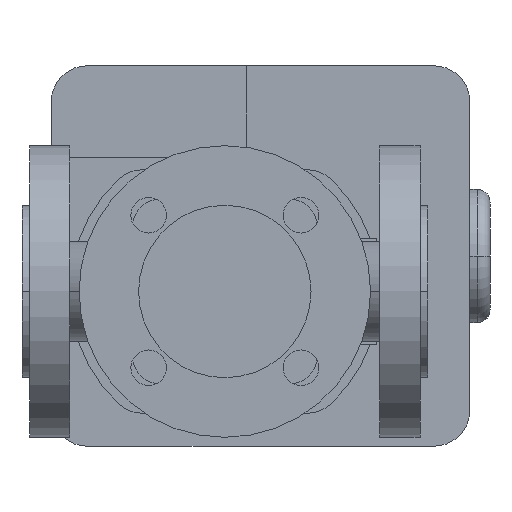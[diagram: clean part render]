
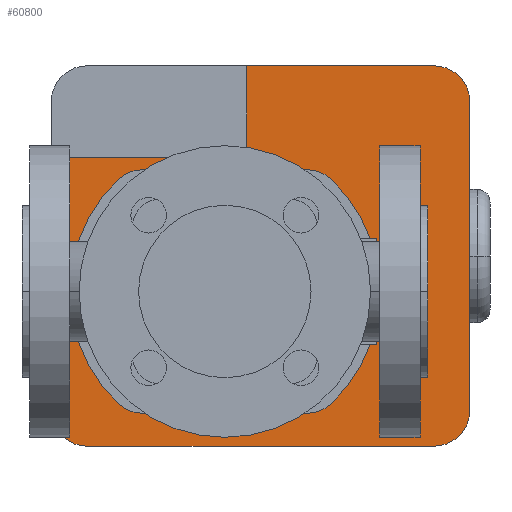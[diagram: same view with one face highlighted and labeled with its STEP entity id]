
A CAD part, front view. The second image highlights one B-rep face of the part: STEP entity #60800.
In plain terms, the highlighted planar face has unit normal (0, -1, 0).
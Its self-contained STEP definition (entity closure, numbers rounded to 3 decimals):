
#49690=CARTESIAN_POINT('',(139.96,502.,11.216));
#49700=VERTEX_POINT('',#49690);
#49730=CARTESIAN_POINT('',(130.,502.,0.));
#49740=DIRECTION('',(0.,1.,0.));
#49750=DIRECTION('',(0.,0.,1.));
#49760=AXIS2_PLACEMENT_3D('',#49730,#49740,#49750);
#49770=CIRCLE('',#49760,15.);
#49780=CARTESIAN_POINT('',(139.96,502.,-11.216));
#49790=VERTEX_POINT('',#49780);
#49800=EDGE_CURVE('',#49700,#49790,#49770,.T.);
#52520=CARTESIAN_POINT('',(122.116,502.,44.128));
#52530=VERTEX_POINT('',#52520);
#52560=CARTESIAN_POINT('',(80.,502.,0.));
#52570=DIRECTION('',(0.,1.,0.));
#52580=DIRECTION('',(0.69,0.,0.723));
#52590=AXIS2_PLACEMENT_3D('',#52560,#52570,#52580);
#52600=CIRCLE('',#52590,61.);
#52610=EDGE_CURVE('',#52530,#49700,#52600,.T.);
#53000=CARTESIAN_POINT('',(20.04,502.,-11.216));
#53010=VERTEX_POINT('',#53000);
#53040=CARTESIAN_POINT('',(30.,502.,0.));
#53050=DIRECTION('',(0.,1.,0.));
#53060=DIRECTION('',(0.,0.,-1.));
#53070=AXIS2_PLACEMENT_3D('',#53040,#53050,#53060);
#53080=CIRCLE('',#53070,15.);
#53090=CARTESIAN_POINT('',(20.04,502.,11.216));
#53100=VERTEX_POINT('',#53090);
#53110=EDGE_CURVE('',#53010,#53100,#53080,.T.);
#54100=CARTESIAN_POINT('',(37.884,502.,-44.128));
#54110=VERTEX_POINT('',#54100);
#54140=CARTESIAN_POINT('',(80.,502.,0.));
#54150=DIRECTION('',(0.,1.,0.));
#54160=DIRECTION('',(-0.69,0.,-0.723));
#54170=AXIS2_PLACEMENT_3D('',#54140,#54150,#54160);
#54180=CIRCLE('',#54170,61.);
#54190=EDGE_CURVE('',#54110,#53010,#54180,.T.);
#56500=CARTESIAN_POINT('',(176.6,502.,75.));
#56510=VERTEX_POINT('',#56500);
#56560=CARTESIAN_POINT('',(162.6,502.,75.));
#56570=DIRECTION('',(0.,1.,0.));
#56580=DIRECTION('',(0.,0.,1.));
#56590=AXIS2_PLACEMENT_3D('',#56560,#56570,#56580);
#56600=CIRCLE('',#56590,14.);
#56610=CARTESIAN_POINT('',(162.6,502.,89.));
#56620=VERTEX_POINT('',#56610);
#56630=EDGE_CURVE('',#56620,#56510,#56600,.T.);
#59360=CARTESIAN_POINT('',(80.,502.,0.));
#59370=DIRECTION('',(0.,1.,0.));
#59380=DIRECTION('',(0.,0.,1.));
#59390=AXIS2_PLACEMENT_3D('',#59360,#59370,#59380);
#59400=PLANE('',#59390);
#59410=ORIENTED_EDGE('',*,*,#52610,.T.);
#59420=CARTESIAN_POINT('',(112.45,502.,34.));
#59430=DIRECTION('',(0.,1.,0.));
#59440=DIRECTION('',(0.,0.,1.));
#59450=AXIS2_PLACEMENT_3D('',#59420,#59430,#59440);
#59460=CIRCLE('',#59450,14.);
#59470=CARTESIAN_POINT('',(112.45,502.,48.));
#59480=VERTEX_POINT('',#59470);
#59490=EDGE_CURVE('',#59480,#52530,#59460,.T.);
#59500=ORIENTED_EDGE('',*,*,#59490,.T.);
#59510=CARTESIAN_POINT('',(63.775,502.,48.));
#59520=DIRECTION('',(1.,0.,0.));
#59530=VECTOR('',#59520,1.);
#59540=LINE('',#59510,#59530);
#59550=CARTESIAN_POINT('',(47.55,502.,48.));
#59560=VERTEX_POINT('',#59550);
#59570=EDGE_CURVE('',#59560,#59480,#59540,.T.);
#59580=ORIENTED_EDGE('',*,*,#59570,.T.);
#59590=CARTESIAN_POINT('',(47.55,502.,34.));
#59600=DIRECTION('',(0.,1.,0.));
#59610=DIRECTION('',(-0.69,0.,0.723));
#59620=AXIS2_PLACEMENT_3D('',#59590,#59600,#59610);
#59630=CIRCLE('',#59620,14.);
#59640=CARTESIAN_POINT('',(37.884,502.,44.128));
#59650=VERTEX_POINT('',#59640);
#59660=EDGE_CURVE('',#59650,#59560,#59630,.T.);
#59670=ORIENTED_EDGE('',*,*,#59660,.T.);
#59680=CARTESIAN_POINT('',(80.,502.,0.));
#59690=DIRECTION('',(0.,1.,0.));
#59700=DIRECTION('',(-0.69,0.,-0.723));
#59710=AXIS2_PLACEMENT_3D('',#59680,#59690,#59700);
#59720=CIRCLE('',#59710,61.);
#59730=EDGE_CURVE('',#53100,#59650,#59720,.T.);
#59740=ORIENTED_EDGE('',*,*,#59730,.T.);
#59750=ORIENTED_EDGE('',*,*,#53110,.T.);
#59760=ORIENTED_EDGE('',*,*,#54190,.T.);
#59770=CARTESIAN_POINT('',(47.55,502.,-34.));
#59780=DIRECTION('',(0.,1.,0.));
#59790=DIRECTION('',(0.,0.,-1.));
#59800=AXIS2_PLACEMENT_3D('',#59770,#59780,#59790);
#59810=CIRCLE('',#59800,14.);
#59820=CARTESIAN_POINT('',(47.55,502.,-48.));
#59830=VERTEX_POINT('',#59820);
#59840=EDGE_CURVE('',#59830,#54110,#59810,.T.);
#59850=ORIENTED_EDGE('',*,*,#59840,.T.);
#59860=CARTESIAN_POINT('',(96.225,502.,-48.));
#59870=DIRECTION('',(-1.,0.,0.));
#59880=VECTOR('',#59870,1.);
#59890=LINE('',#59860,#59880);
#59900=CARTESIAN_POINT('',(112.45,502.,-48.));
#59910=VERTEX_POINT('',#59900);
#59920=EDGE_CURVE('',#59910,#59830,#59890,.T.);
#59930=ORIENTED_EDGE('',*,*,#59920,.T.);
#59940=CARTESIAN_POINT('',(112.45,502.,-34.));
#59950=DIRECTION('',(0.,1.,0.));
#59960=DIRECTION('',(0.69,0.,-0.723));
#59970=AXIS2_PLACEMENT_3D('',#59940,#59950,#59960);
#59980=CIRCLE('',#59970,14.);
#59990=CARTESIAN_POINT('',(122.116,502.,-44.128));
#60000=VERTEX_POINT('',#59990);
#60010=EDGE_CURVE('',#60000,#59910,#59980,.T.);
#60020=ORIENTED_EDGE('',*,*,#60010,.T.);
#60030=CARTESIAN_POINT('',(80.,502.,0.));
#60040=DIRECTION('',(0.,1.,0.));
#60050=DIRECTION('',(0.69,0.,0.723));
#60060=AXIS2_PLACEMENT_3D('',#60030,#60040,#60050);
#60070=CIRCLE('',#60060,61.);
#60080=EDGE_CURVE('',#49790,#60000,#60070,.T.);
#60090=ORIENTED_EDGE('',*,*,#60080,.T.);
#60100=ORIENTED_EDGE('',*,*,#49800,.T.);
#60110=EDGE_LOOP('',(#60100,#60090,#60020,#59930,#59850,#59760,#59750,
#59740,#59670,#59580,#59500,#59410));
#60120=FACE_BOUND('',#60110,.T.);
#60130=CARTESIAN_POINT('',(88.6,502.,26.5));
#60140=DIRECTION('',(0.,0.,-1.));
#60150=VECTOR('',#60140,1.);
#60160=LINE('',#60130,#60150);
#60170=CARTESIAN_POINT('',(88.6,502.,89.));
#60180=VERTEX_POINT('',#60170);
#60190=CARTESIAN_POINT('',(88.6,502.,53.));
#60200=VERTEX_POINT('',#60190);
#60210=EDGE_CURVE('',#60180,#60200,#60160,.T.);
#60220=ORIENTED_EDGE('',*,*,#60210,.T.);
#60230=CARTESIAN_POINT('',(25.6,502.,89.));
#60240=DIRECTION('',(1.,0.,0.));
#60250=VECTOR('',#60240,1.);
#60260=LINE('',#60230,#60250);
#60270=EDGE_CURVE('',#60180,#56620,#60260,.T.);
#60280=ORIENTED_EDGE('',*,*,#60270,.F.);
#60290=ORIENTED_EDGE('',*,*,#56630,.F.);
#60300=CARTESIAN_POINT('',(176.6,502.,75.));
#60310=DIRECTION('',(0.,0.,-1.));
#60320=VECTOR('',#60310,1.);
#60330=LINE('',#60300,#60320);
#60340=CARTESIAN_POINT('',(176.6,502.,-47.));
#60350=VERTEX_POINT('',#60340);
#60360=EDGE_CURVE('',#56510,#60350,#60330,.T.);
#60370=ORIENTED_EDGE('',*,*,#60360,.F.);
#60380=CARTESIAN_POINT('',(162.6,502.,-47.));
#60390=DIRECTION('',(0.,1.,0.));
#60400=DIRECTION('',(1.,0.,0.));
#60410=AXIS2_PLACEMENT_3D('',#60380,#60390,#60400);
#60420=CIRCLE('',#60410,14.);
#60430=CARTESIAN_POINT('',(162.6,502.,-61.));
#60440=VERTEX_POINT('',#60430);
#60450=EDGE_CURVE('',#60350,#60440,#60420,.T.);
#60460=ORIENTED_EDGE('',*,*,#60450,.F.);
#60470=CARTESIAN_POINT('',(162.6,502.,-61.));
#60480=DIRECTION('',(-1.,0.,0.));
#60490=VECTOR('',#60480,1.);
#60500=LINE('',#60470,#60490);
#60510=CARTESIAN_POINT('',(25.6,502.,-61.));
#60520=VERTEX_POINT('',#60510);
#60530=EDGE_CURVE('',#60440,#60520,#60500,.T.);
#60540=ORIENTED_EDGE('',*,*,#60530,.F.);
#60550=CARTESIAN_POINT('',(25.6,502.,-47.));
#60560=DIRECTION('',(0.,1.,0.));
#60570=DIRECTION('',(0.,0.,-1.));
#60580=AXIS2_PLACEMENT_3D('',#60550,#60560,#60570);
#60590=CIRCLE('',#60580,14.);
#60600=CARTESIAN_POINT('',(11.6,502.,-47.));
#60610=VERTEX_POINT('',#60600);
#60620=EDGE_CURVE('',#60520,#60610,#60590,.T.);
#60630=ORIENTED_EDGE('',*,*,#60620,.F.);
#60640=CARTESIAN_POINT('',(11.6,502.,-47.));
#60650=DIRECTION('',(0.,0.,1.));
#60660=VECTOR('',#60650,1.);
#60670=LINE('',#60640,#60660);
#60680=CARTESIAN_POINT('',(11.6,502.,53.));
#60690=VERTEX_POINT('',#60680);
#60700=EDGE_CURVE('',#60610,#60690,#60670,.T.);
#60710=ORIENTED_EDGE('',*,*,#60700,.F.);
#60720=CARTESIAN_POINT('',(45.3,502.,53.));
#60730=DIRECTION('',(-1.,0.,0.));
#60740=VECTOR('',#60730,1.);
#60750=LINE('',#60720,#60740);
#60760=EDGE_CURVE('',#60200,#60690,#60750,.T.);
#60770=ORIENTED_EDGE('',*,*,#60760,.T.);
#60780=EDGE_LOOP('',(#60770,#60710,#60630,#60540,#60460,#60370,#60290,
#60280,#60220));
#60790=FACE_OUTER_BOUND('',#60780,.T.);
#60800=ADVANCED_FACE('',(#60120,#60790),#59400,.F.);
